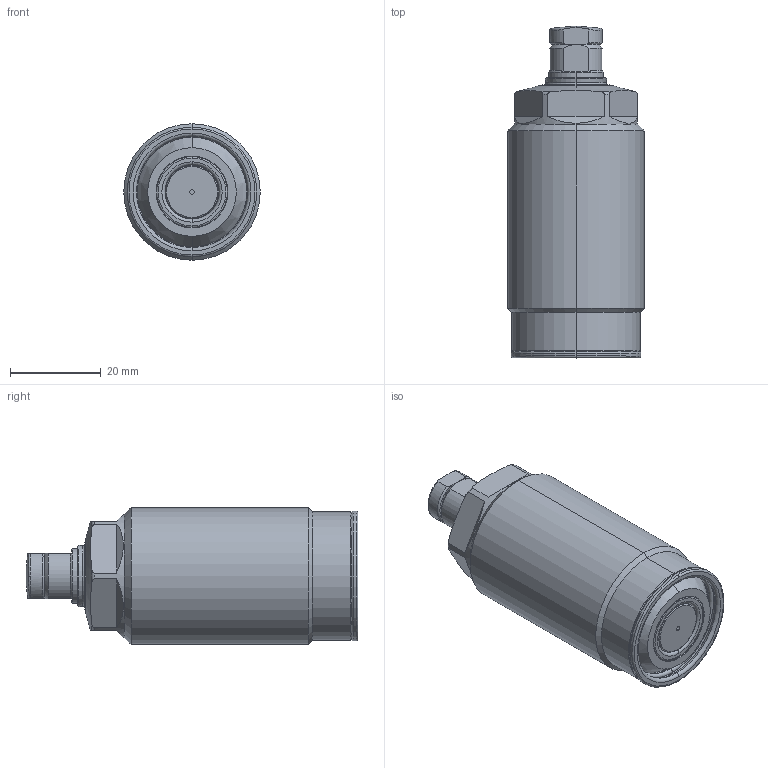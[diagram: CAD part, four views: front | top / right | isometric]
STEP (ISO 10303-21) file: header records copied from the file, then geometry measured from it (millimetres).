
FILE_DESCRIPTION(/* description */ (''),/* implementation_level */ '2;1');
FILE_NAME(/* name */ 'TSC30.stp',/* time_stamp */ '2024-11-02T14:27:34+08:00',/* author */ (''),/* organization */ (''),/* preprocessor_version */ 'ST-DEVELOPER v16.7',/* originating_system */ 'SIEMENS PLM Software NX 12.0',/* authorisation */ '');
FILE_SCHEMA (('AP203_CONFIGURATION_CONTROLLED_3D_DESIGN_OF_MECHANICAL_PARTS_AND_ASSEMBLIES_MIM_LF { 1 0 10303 403 2 1 2}'));
Length unit declared in the file: millimetre
Products named in the file (7): XLD-M8_contactbolt; XLD-M8_Oring; TSC30-03; TSC30-02; TSC30-01; TSC30-04; LD0303-x_step
Assembly tree (6 placements, depth 3):
  LD0303-x_step
    TSC30-01
    TSC30-02
    TSC30-03
    TSC30-04
      XLD-M8_Oring
      XLD-M8_contactbolt
Bounding box: 30 x 73 x 30 mm (x, y, z)
Volume: 40217.6 mm3; surface area: 9865.1 mm2
Topology: 5 solids, 5 shells, 174 faces, 380 edges, 228 vertices
Faces by surface type: torus 64, cylinder 43, plane 39, cone 26, sphere 2
Entity records: 5885 total; most frequent: CARTESIAN_POINT 1173, DIRECTION 939, ORIENTED_EDGE 760, AXIS2_PLACEMENT_3D 422, EDGE_CURVE 380, CIRCLE 241, VERTEX_POINT 228, EDGE_LOOP 190
